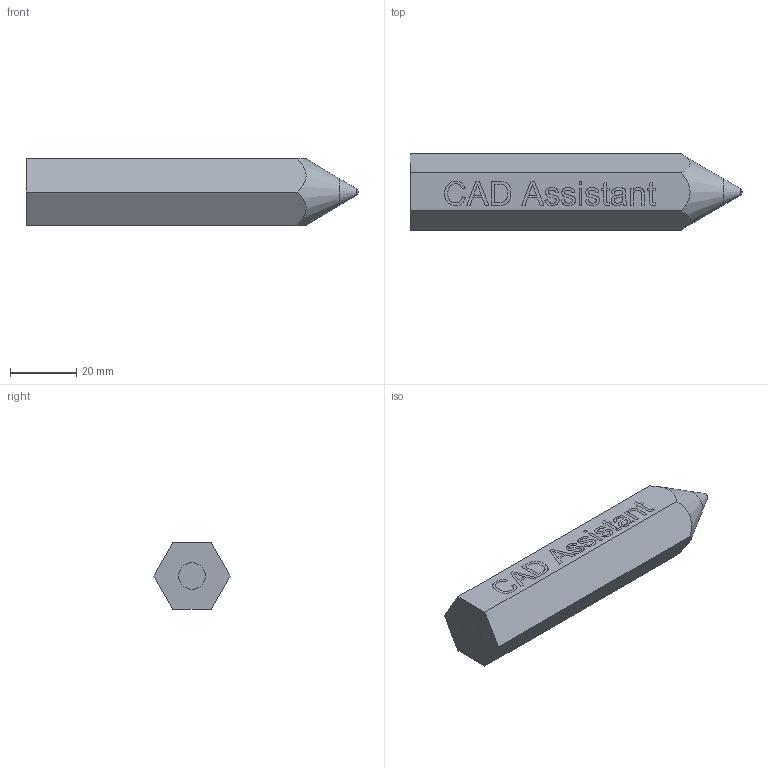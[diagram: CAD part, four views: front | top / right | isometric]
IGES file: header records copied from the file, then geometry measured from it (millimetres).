
Global section: file name: Filename.iges; native system: Open CASCADE 6.8; preprocessor: Open CASCADE IGES processor 6.8; author: abv; date: 20141217.141554; units: millimetre
Bounding box: 100.6 x 23.09 x 20 mm (x, y, z)
Volume: 31152.3 mm3; surface area: 11622.5 mm2
Topology: 2 solids, 2 shells, 31 faces, 302 edges, 291 vertices
Faces by surface type: plane 25, cylinder 2, cone 2, sphere 2
Full cylindrical faces by diameter (mm): 8 x2
